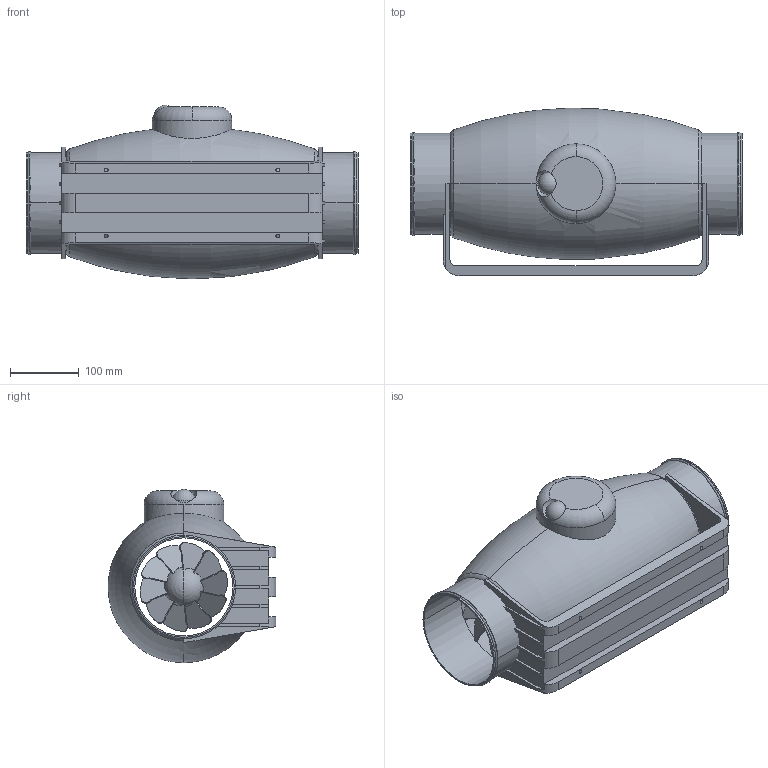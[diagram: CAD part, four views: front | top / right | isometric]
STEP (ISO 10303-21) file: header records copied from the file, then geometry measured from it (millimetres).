
FILE_DESCRIPTION(('STEP AP214'),'1');
FILE_NAME('fan_5212000000.stp','2017-07-15T08:24:21',('TraceParts'),('TraceParts S.A.'),'Spatial InterOp 3D',' ',' ');
FILE_SCHEMA(('automotive_design'));
Length unit declared in the file: millimetre
Products named in the file (1): fan_5212000000
Bounding box: 484 x 244.29 x 252.92 mm (x, y, z)
Volume: 3183020.7 mm3; surface area: 782742.5 mm2
Topology: 1 solids, 1 shells, 189 faces, 556 edges, 368 vertices
Faces by surface type: plane 104, cylinder 60, torus 18, sphere 7
Entity records: 8359 total; most frequent: CARTESIAN_POINT 1520, DIRECTION 1206, ORIENTED_EDGE 1108, EDGE_CURVE 554, AXIS2_PLACEMENT_3D 475, VERTEX_POINT 368, LINE 256, VECTOR 256
